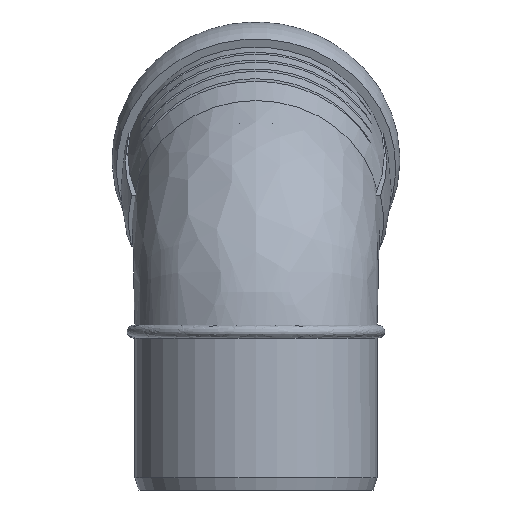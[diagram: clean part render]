
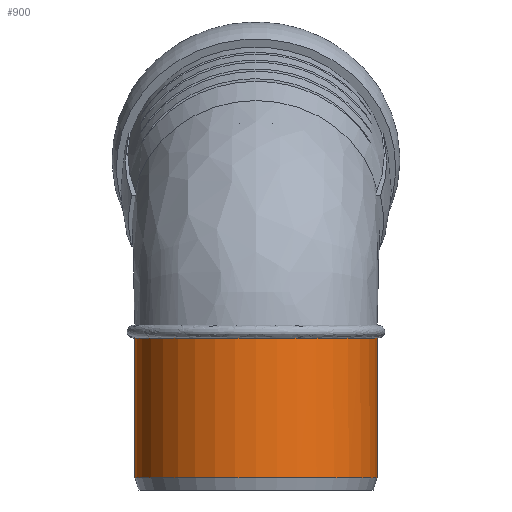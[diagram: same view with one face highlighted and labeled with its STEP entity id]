
A CAD part, left-side view. The second image highlights one B-rep face of the part: STEP entity #900.
In plain terms, the highlighted cylindrical face has radius 55.1 mm (diameter 110.2 mm), a full revolution.
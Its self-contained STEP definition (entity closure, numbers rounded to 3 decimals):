
#55=FACE_BOUND('',#171,.T.);
#84=CYLINDRICAL_SURFACE('',#967,55.1);
#117=FACE_OUTER_BOUND('',#170,.T.);
#170=EDGE_LOOP('',(#595,#596,#597,#598));
#171=EDGE_LOOP('',(#599));
#244=CIRCLE('',#957,55.1);
#249=CIRCLE('',#968,55.1);
#250=CIRCLE('',#969,55.1);
#251=CIRCLE('',#970,55.1);
#252=CIRCLE('',#971,55.1);
#352=VERTEX_POINT('',#1416);
#359=VERTEX_POINT('',#1497);
#362=VERTEX_POINT('',#1537);
#363=VERTEX_POINT('',#1539);
#364=VERTEX_POINT('',#1542);
#455=EDGE_CURVE('',#352,#359,#244,.T.);
#460=EDGE_CURVE('',#362,#352,#249,.T.);
#461=EDGE_CURVE('',#359,#363,#250,.T.);
#462=EDGE_CURVE('',#363,#362,#251,.T.);
#463=EDGE_CURVE('',#364,#364,#252,.T.);
#595=ORIENTED_EDGE('',*,*,#460,.T.);
#596=ORIENTED_EDGE('',*,*,#455,.T.);
#597=ORIENTED_EDGE('',*,*,#461,.T.);
#598=ORIENTED_EDGE('',*,*,#462,.T.);
#599=ORIENTED_EDGE('',*,*,#463,.F.);
#900=ADVANCED_FACE('',(#117,#55),#84,.T.);
#957=AXIS2_PLACEMENT_3D('',#1524,#1055,#1056);
#967=AXIS2_PLACEMENT_3D('',#1536,#1075,#1076);
#968=AXIS2_PLACEMENT_3D('',#1538,#1077,#1078);
#969=AXIS2_PLACEMENT_3D('',#1540,#1079,#1080);
#970=AXIS2_PLACEMENT_3D('',#1541,#1081,#1082);
#971=AXIS2_PLACEMENT_3D('',#1543,#1083,#1084);
#1055=DIRECTION('center_axis',(0.,0.,-1.));
#1056=DIRECTION('ref_axis',(1.,0.,0.));
#1075=DIRECTION('center_axis',(0.,0.,-1.));
#1076=DIRECTION('ref_axis',(0.,1.,0.));
#1077=DIRECTION('center_axis',(0.,0.,-1.));
#1078=DIRECTION('ref_axis',(1.,0.,0.));
#1079=DIRECTION('center_axis',(0.,0.,-1.));
#1080=DIRECTION('ref_axis',(1.,0.,0.));
#1081=DIRECTION('center_axis',(0.,0.,-1.));
#1082=DIRECTION('ref_axis',(1.,0.,0.));
#1083=DIRECTION('center_axis',(0.,0.,-1.));
#1084=DIRECTION('ref_axis',(1.,0.,0.));
#1416=CARTESIAN_POINT('',(51.216,20.322,69.1));
#1497=CARTESIAN_POINT('',(51.216,-20.322,69.1));
#1524=CARTESIAN_POINT('Origin',(0.,0.,69.1));
#1536=CARTESIAN_POINT('Origin',(0.,0.,37.3));
#1537=CARTESIAN_POINT('',(0.,55.1,69.1));
#1538=CARTESIAN_POINT('Origin',(0.,0.,69.1));
#1539=CARTESIAN_POINT('',(-55.1,0.,69.1));
#1540=CARTESIAN_POINT('Origin',(0.,0.,69.1));
#1541=CARTESIAN_POINT('Origin',(0.,0.,69.1));
#1542=CARTESIAN_POINT('',(0.,55.1,5.5));
#1543=CARTESIAN_POINT('Origin',(0.,0.,5.5));
